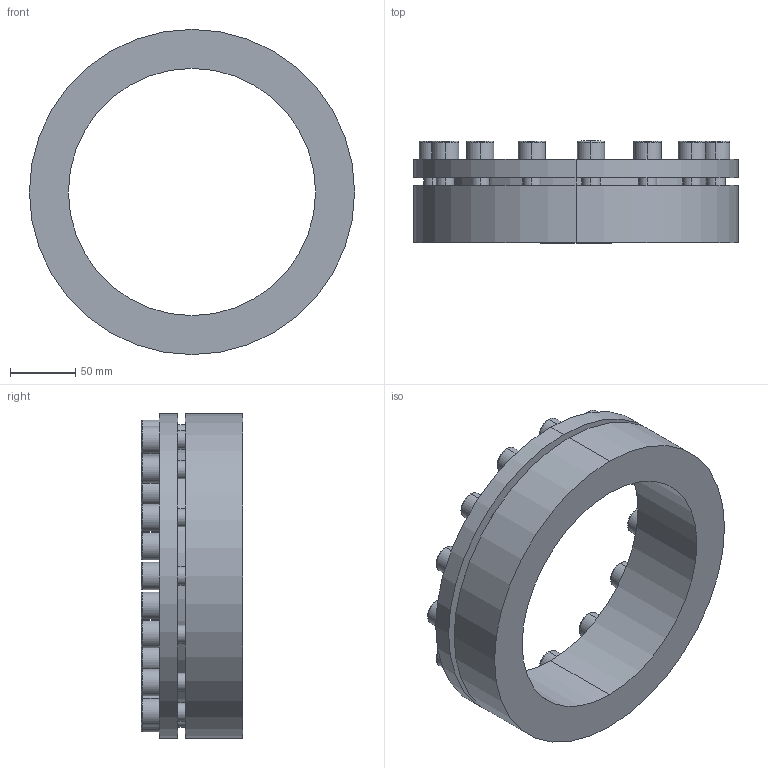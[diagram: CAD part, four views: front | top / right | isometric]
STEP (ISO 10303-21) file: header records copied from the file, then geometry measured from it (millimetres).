
FILE_DESCRIPTION (( 'STEP AP203' ), '1' );
FILE_NAME ('PL-H3 190-250.STEP', '2021-10-23T01:11:28', ( '' ), ( '' ), 'SwSTEP 2.0', 'SolidWorks 2018', '' );
FILE_SCHEMA (( 'CONFIG_CONTROL_DESIGN' ));
Length unit declared in the file: millimetre
Products named in the file (1): PL-H3 190-250
Bounding box: 250 x 78 x 250 mm (x, y, z)
Volume: 1298056.7 mm3; surface area: 180239.5 mm2
Topology: 1 solids, 1 shells, 222 faces, 534 edges, 346 vertices
Faces by surface type: plane 124, cylinder 68, torus 30
Entity records: 6615 total; most frequent: DIRECTION 1176, CARTESIAN_POINT 1103, ORIENTED_EDGE 1068, EDGE_CURVE 534, AXIS2_PLACEMENT_3D 419, VERTEX_POINT 346, LINE 338, VECTOR 338
